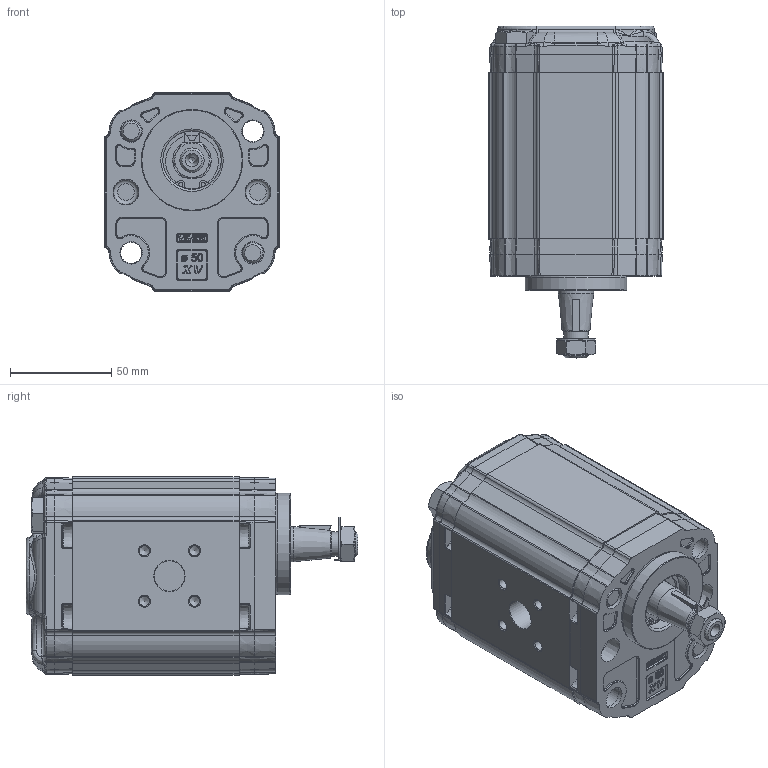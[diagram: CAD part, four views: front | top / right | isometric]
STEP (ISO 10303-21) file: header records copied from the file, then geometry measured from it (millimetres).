
FILE_DESCRIPTION(/* description */ ('Unknown'),/* implementation_level */ '2;1');
FILE_NAME(/* name */ 'X2U5712FSRA',/* time_stamp */ '2026-06-03T18:06:31+02:00',/* author */ ('Unknown'),/* organization */ ('Unknown'),/* preprocessor_version */ 'ST-DEVELOPER v16.7',/* originating_system */ 'Solid Edge',/* authorisation */ 'Unknown');
FILE_SCHEMA (('AUTOMOTIVE_DESIGN {1 0 10303 214 3 1 1}'));
Products named in the file (5): X2U5712FSRA; X2U12; 2F; X2SRH82; XU210-A
Assembly tree (4 placements, depth 2):
  X2U5712FSRA
    X2U12
    2F
    X2SRH82
    XU210-A
Bounding box: 86 x 163.65 x 98 mm (x, y, z)
Volume: 868204.7 mm3; surface area: 115849.8 mm2
Topology: 4 solids, 8 shells, 2657 faces, 6498 edges, 3921 vertices
Faces by surface type: cylinder 752, bspline 670, plane 652, cone 300, torus 219, sphere 64
Full cylindrical faces by diameter (mm): 2 x2, 5 x8, 10 x6, 10.5 x8, 11 x2, 12 x2, 12.5 x1, 15 x1, 16 x2, 17.42 x1, 18 x1, 20 x1, 20.595 x1, 23.332 x1, 25 x1, 25.834 x1, 28.5 x1, 28.56 x1, 28.57 x1, 28.8 x1, 30.5 x1, 50 x1
Entity records: 124065 total; most frequent: CARTESIAN_POINT 49001, ORIENTED_EDGE 12470, DIRECTION 10246, EDGE_CURVE 6235, AXIS2_PLACEMENT_3D 4051, VERTEX_POINT 3856, FACE_BOUND 2947, EDGE_LOOP 2937
